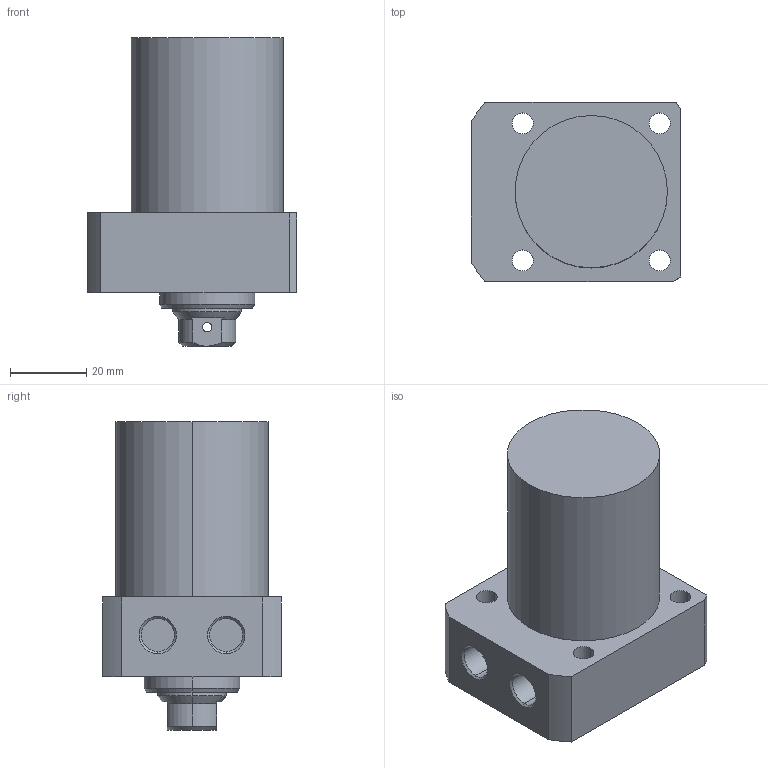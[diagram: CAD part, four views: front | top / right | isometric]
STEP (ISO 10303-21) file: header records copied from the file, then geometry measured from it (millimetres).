
FILE_DESCRIPTION (( 'STEP AP203' ), '1' );
FILE_NAME ('CLL-R040-CB-035.STEP', '2017-05-10T11:58:05', ( '' ), ( '' ), 'SwSTEP 2.0', 'SolidWorks 2015', '' );
FILE_SCHEMA (( 'CONFIG_CONTROL_DESIGN' ));
Length unit declared in the file: millimetre
Products named in the file (1): CLL-R040-CB-035
Bounding box: 55 x 47 x 81 mm (x, y, z)
Volume: 110839.7 mm3; surface area: 18273.6 mm2
Topology: 1 solids, 1 shells, 67 faces, 159 edges, 100 vertices
Faces by surface type: cylinder 33, plane 19, cone 15
Entity records: 2129 total; most frequent: CARTESIAN_POINT 441, DIRECTION 358, ORIENTED_EDGE 314, EDGE_CURVE 157, AXIS2_PLACEMENT_3D 145, VERTEX_POINT 100, EDGE_LOOP 87, CIRCLE 77
